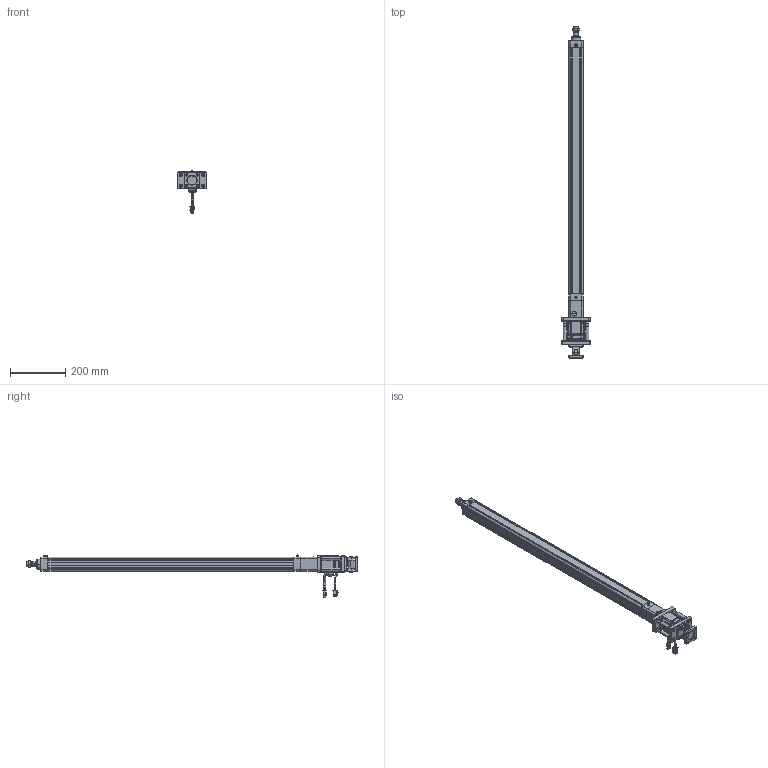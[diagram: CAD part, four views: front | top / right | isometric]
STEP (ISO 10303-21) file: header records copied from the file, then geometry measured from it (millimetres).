
FILE_DESCRIPTION((''),'2;1');
FILE_NAME('HE40-D-100_ASM','2020-05-27T',('ASUS20200'),(''),'CREO PARAMETRIC BY PTC INC, 2014190','CREO PARAMETRIC BY PTC INC, 2014190','');
FILE_SCHEMA(('CONFIG_CONTROL_DESIGN'));
Products named in the file (32): HE40-D-P-001-X1; HE40-D-P-002-X1; HE40-D-P-003-X1; 6200ZZ; HE40-D-009-X1; HE40-D-010-X1; _MHMF022L1A2; _CABLE_MOTOR_BOTTOM_03; _CABLE_MOTOR_TOP_03; _MOTOR_CONNECTOR_2; _CABLE_BRAKE_BOTTOM_03; _CABLE_BRAKE_TOP_03; _MHMF_CONNECTOR_9_PIN_A6; MHMF022L1A2M2_1_ASM; MHMF022L1A2M2_ASM; SLM-01; YZ-M6X1; JDB202820; SKT-13; JX5X5X20; HE40-FB-LG; F-HE40-FB; M6X16; F-SE40CB; F-SE40CB-XD; F-SE40CB_ASM; F-SE40CA; HE40-D-P-005-X1; HE40-D-P-004-X1; HE40-D-P-008-X1; LGLM-M6-22; HE40-D-100_ASM
Assembly tree (48 placements, depth 4):
  HE40-D-100_ASM
    HE40-D-P-001-X1
    HE40-D-P-002-X1
    HE40-D-P-003-X1
    6200ZZ
    HE40-D-009-X1
    HE40-D-010-X1
    MHMF022L1A2M2_ASM
      MHMF022L1A2M2_1_ASM
        _MHMF022L1A2
        _CABLE_MOTOR_BOTTOM_03
        _CABLE_MOTOR_TOP_03
        _MOTOR_CONNECTOR_2
        _CABLE_BRAKE_BOTTOM_03
        _CABLE_BRAKE_TOP_03
        _MHMF_CONNECTOR_9_PIN_A6
    SLM-01
    YZ-M6X1
    JDB202820
    SKT-13
    JX5X5X20
    HE40-FB-LG  x4
    F-HE40-FB
    M6X16  x12
    F-SE40CB_ASM
      F-SE40CB
      F-SE40CB-XD
    F-SE40CA
    HE40-D-P-005-X1
    HE40-D-P-004-X1
    HE40-D-P-008-X1
    LGLM-M6-22  x4
Bounding box: 105 x 1205 x 152.7 mm (x, y, z)
Volume: 1618001.7 mm3; surface area: 644255.4 mm2
Topology: 45 solids, 82 shells, 3011 faces, 7135 edges, 4395 vertices
Faces by surface type: plane 1173, cylinder 910, cone 750, torus 138, sphere 36, bspline 4
Entity records: 77381 total; most frequent: CARTESIAN_POINT 14425, DIRECTION 13912, ORIENTED_EDGE 12302, EDGE_CURVE 6207, AXIS2_PLACEMENT_3D 5258, VERTEX_POINT 3854, VECTOR 3396, LINE 3396
